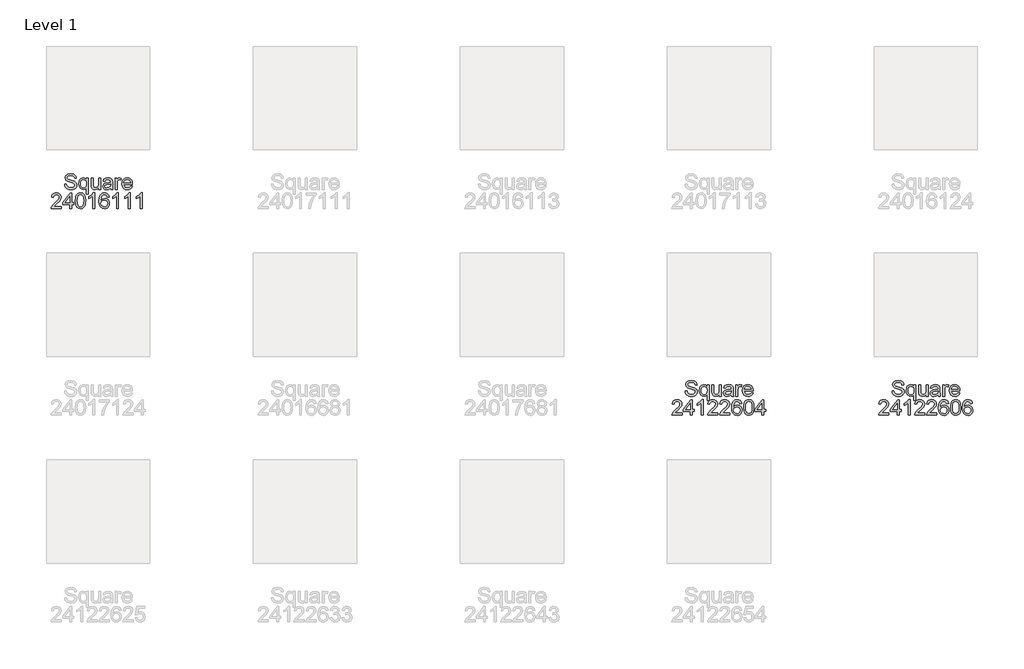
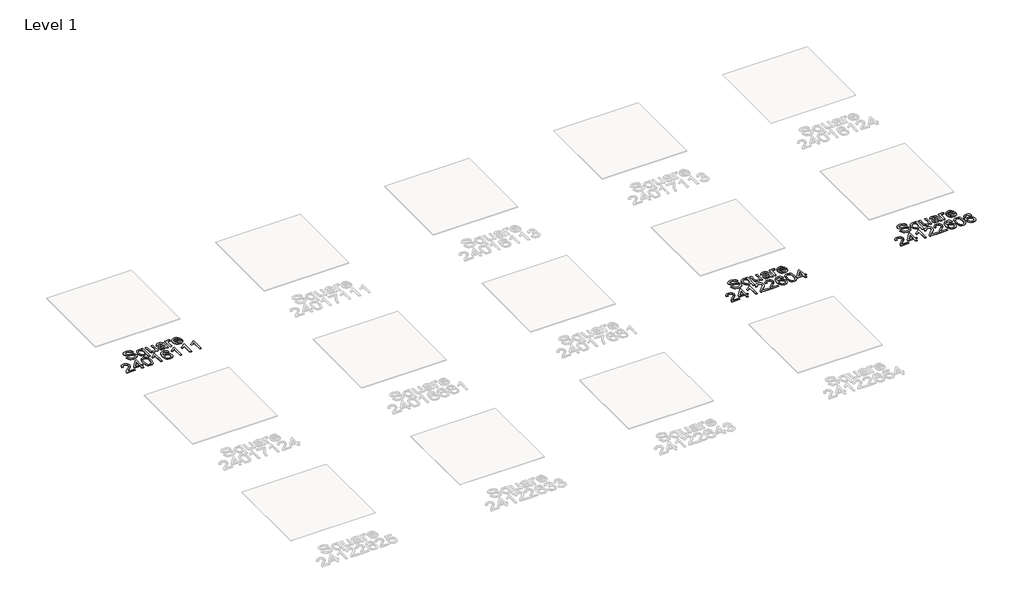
# One storey, part 4 of 6: 3 proxies.
"""IFC4 building model written with IfcOpenShell, lengths in millimetres."""

from ifc_helpers import new_model, si_unit, origin, origin_with_axes, place, context, project, spatial, polyline, outline, extrude, element, save

model = new_model("IFC4")

# Units and contexts
model_context = context("Model", 3, world=origin())
ifc_project = project(units=[si_unit("LENGTHUNIT", "METRE", prefix="MILLI")], contexts=[model_context])

# Site, building, storey
site = spatial("IfcSite", under=ifc_project)
building = spatial("IfcBuilding", under=site)
storey = spatial("IfcBuildingStorey", under=building, Name="Level 1", Elevation=0.0)

# Proxies
placement = place(None, origin())
element("IfcBuildingElementProxy", 1, Name="150mm Arial", ObjectType="150mm Arial", at=placement, inside=storey, context=model_context, shape_type="SweptSolid", body=[
    extrude(outline(polyline([(-4760.0314438, 688.8522427), (-4741.1958857, 688.8522427), (-4735.1258328, 669.9982904), (-4720.3001884, 658.0789138), (-4697.7122339, 653.5355712), (-4678.0305471, 656.9752678), (-4665.3202242, 666.4298351), (-4661.1447635, 679.0665816), (-4664.2717605, 690.8204114), (-4677.0740539, 699.3736678), (-4704.4996567, 706.5657608), (-4734.0221868, 715.8547811), (-4750.0434477, 729.8710852), (-4755.3225543, 748.5962787), (-4753.6900779, 759.62814), (-4748.7926489, 769.9150403), (-4740.7590258, 778.6338436), (-4729.7179674, 784.9614139), (-4701.795724, 790.0933678), (-4671.9972824, 784.7222906), (-4660.5745464, 778.0912177), (-4652.1316547, 768.940153), (-4646.7881687, 757.8393138), (-4644.6636501, 745.3589172), (-4663.4992083, 745.3589172), (-4666.9572991, 756.5977121), (-4674.1677862, 764.7095101), (-4685.4341723, 769.6207347), (-4701.05996, 771.2578096), (-4717.0536297, 769.6391288), (-4728.0257103, 764.7830865), (-4734.3716747, 757.6369787), (-4736.4869961, 749.1481017), (-4734.987877, 741.9100234), (-4730.4905196, 736.0882909), (-4699.7355848, 725.5668658), (-4666.4054761, 716.1122985), (-4655.6679203, 709.2788905), (-4648.1769232, 700.8451957), (-4643.7761348, 690.9031848), (-4642.3092054, 679.5448282), (-4643.996864, 667.9335527), (-4649.05984, 657.012056), (-4657.2911996, 647.612671), (-4668.4840093, 640.5677308), (-4681.9438918, 636.1669425), (-4696.9764699, 634.700013), (-4715.4303504, 636.2819056), (-4730.6192783, 641.0275833), (-4742.7179974, 648.9554403), (-4751.9012517, 660.0838707), (-4757.7965607, 673.6403222), (-4760.0314438, 688.8522427)])), origin_with_axes(), (0.0, 0.0, 1.0), 5.0),
    extrude(outline(polyline([(-4548.1314146, 594.6744519), (-4548.1314146, 652.1376196), (-4560.0875795, 639.6664199), (-4576.42154, 634.700013), (-4594.3281962, 638.6225548), (-4609.5677078, 650.3901801), (-4619.9971624, 668.9912135), (-4623.4736472, 693.4139794), (-4617.9554173, 723.2492092), (-4611.1955856, 734.8558862), (-4601.9525505, 743.2619898), (-4590.9620759, 748.3663525), (-4578.9599258, 750.0678067), (-4561.4487428, 744.7887001), (-4548.1314146, 728.9513802), (-4548.1314146, 747.7133619), (-4529.2958565, 747.7133619), (-4529.2958565, 594.6744519), (-4548.1314146, 594.6744519)]), holes=[polyline([(-4604.6380891, 692.3839098), (-4602.5181691, 675.3877617), (-4596.1584091, 663.2476558), (-4586.837199, 655.9635923), (-4575.8329289, 653.5355712), (-4565.2885112, 655.8440307), (-4556.316789, 662.7694092), (-4550.1777582, 674.4128744), (-4548.1314146, 690.8755937), (-4550.2881228, 708.4741486), (-4556.7582474, 721.0970996), (-4566.1346398, 728.6984613), (-4577.0101512, 731.2322485), (-4587.6833276, 728.8732052), (-4596.5998675, 721.7960754), (-4602.6285337, 709.7249474), (-4604.6380891, 692.3839098)])]), origin_with_axes(), (0.0, 0.0, 1.0), 5.0),
    extrude(outline(polyline([(-4430.4091762, 637.0544578), (-4430.4091762, 656.0739569), (-4445.1612442, 640.043499), (-4464.4014725, 634.700013), (-4482.1149906, 638.4524094), (-4494.3286728, 647.8701884), (-4499.9388732, 661.7393396), (-4501.0425192, 679.2505226), (-4501.0425192, 747.7133619), (-4482.2069611, 747.7133619), (-4482.2069611, 688.1164787), (-4481.0665269, 668.9130386), (-4473.6169165, 657.6374554), (-4459.5822184, 653.5355712), (-4443.8552631, 657.7294259), (-4433.4625967, 669.1521618), (-4430.4091762, 690.1398297), (-4430.4091762, 747.7133619), (-4411.573618, 747.7133619), (-4411.573618, 637.0544578), (-4430.4091762, 637.0544578)])), origin_with_axes(), (0.0, 0.0, 1.0), 5.0),
    extrude(outline(polyline([(-4315.0413825, 651.1811264), (-4333.3067235, 638.4156212), (-4353.485051, 634.700013), (-4369.2258018, 636.9348961), (-4380.8370773, 643.6395455), (-4387.9969806, 653.8206797), (-4390.3836151, 666.4850174), (-4386.7783715, 681.3842382), (-4377.3054102, 692.1999688), (-4364.1168406, 698.3803864), (-4347.8196682, 701.2130777), (-4315.1517471, 707.6878008), (-4315.0413825, 711.8816556), (-4316.3381665, 720.2877592), (-4320.2285186, 725.787595), (-4328.9289278, 729.8710852), (-4341.0506395, 731.2322485), (-4360.1069269, 727.6086109), (-4369.1936122, 714.7511352), (-4388.0291703, 717.1055799), (-4379.8805841, 735.4996797), (-4363.4730471, 746.2786221), (-4338.6226184, 750.0678067), (-4315.7955406, 746.7200805), (-4302.9012766, 738.3139769), (-4297.1255293, 725.5300776), (-4296.2058243, 709.0489642), (-4296.2058243, 685.6148811), (-4295.2493311, 652.8917777), (-4291.4969348, 637.0544578), (-4310.3324929, 637.0544578), (-4315.0413825, 651.1811264)]), holes=[polyline([(-4315.0413825, 688.8522427), (-4345.4284353, 683.0764954), (-4361.6336372, 680.0230748), (-4368.972883, 675.0566679), (-4371.5480569, 667.8093926), (-4365.9378565, 657.6190613), (-4349.4751372, 653.5355712), (-4330.4188499, 658.0421256), (-4318.1315912, 668.9498268), (-4315.1517471, 683.5179538), (-4315.0413825, 688.8522427)])]), origin_with_axes(), (0.0, 0.0, 1.0), 5.0),
    extrude(outline(polyline([(-4270.3069319, 637.0544578), (-4270.3069319, 747.7133619), (-4253.8258185, 747.7133619), (-4253.8258185, 731.3426131), (-4242.127171, 746.4257749), (-4230.3549472, 750.0678067), (-4211.4458126, 744.2552712), (-4217.7365947, 727.3694876), (-4230.9803466, 731.2322485), (-4241.6305303, 727.5166404), (-4248.4179531, 717.2159445), (-4251.4713737, 695.2166012), (-4251.4713737, 637.0544578), (-4270.3069319, 637.0544578)])), origin_with_axes(), (0.0, 0.0, 1.0), 5.0),
    extrude(outline(polyline([(-4122.1976406, 670.0166845), (-4103.7299644, 667.6622398), (-4110.38403, 653.7471033), (-4121.0020241, 643.3452399), (-4135.3448234, 636.8613197), (-4153.1733046, 634.700013), (-4175.2738155, 638.4294167), (-4192.2791607, 649.6176279), (-4203.1224825, 667.5380796), (-4206.7369231, 691.4642049), (-4203.0856943, 716.195072), (-4192.1320079, 734.6903393), (-4175.3565889, 746.2234398), (-4154.2401624, 750.0678067), (-4133.7813249, 746.2326369), (-4117.4335688, 734.7271275), (-4106.7144071, 716.2686484), (-4103.1413532, 691.5745695), (-4103.2517178, 686.4977979), (-4187.9013649, 686.4977979), (-4184.6410108, 672.3987205), (-4177.0672402, 662.0336452), (-4166.1365464, 655.6600897), (-4152.8054226, 653.5355712), (-4134.3377464, 657.4719085), (-4122.1976406, 670.0166845)]), holes=[polyline([(-4187.9013649, 705.3333561), (-4121.9769114, 705.3333561), (-4124.5244942, 715.284564), (-4129.5184923, 722.4030807), (-4140.4997699, 729.0249566), (-4154.3137388, 731.2322485), (-4167.0102661, 729.4710135), (-4177.5086986, 724.1873083), (-4184.8065577, 715.9513502), (-4187.9013649, 705.3333561)])]), origin_with_axes(), (0.0, 0.0, 1.0), 5.0),
    extrude(outline(polyline([(-4789.4620034, 472.9277892), (-4789.4620034, 454.092231), (-4888.3486838, 454.092231), (-4886.3253328, 467.0784654), (-4874.8842027, 487.0728519), (-4851.3029668, 508.9066483), (-4818.7821985, 540.2869825), (-4812.6845544, 551.1027131), (-4810.6520064, 561.6241382), (-4812.5695913, 571.0557128), (-4818.322346, 578.8961979), (-4827.1653094, 584.179903), (-4838.3535206, 585.9411381), (-4850.1027518, 584.2212897), (-4859.2308238, 579.0617448), (-4865.1215343, 570.8671733), (-4867.1586808, 560.0422456), (-4885.994239, 562.3966904), (-4881.4279037, 580.6160462), (-4871.5548707, 593.9241774), (-4856.8901746, 602.0635665), (-4837.9488504, 604.7766962), (-4818.8695704, 601.7600639), (-4804.2324656, 592.7101668), (-4794.9204526, 579.1905035), (-4791.8164482, 562.7645724), (-4795.1641744, 544.9039015), (-4806.2926047, 526.4362254), (-4833.2767491, 500.6293034), (-4854.9449986, 482.5111151), (-4863.4430727, 472.9277892), (-4789.4620034, 472.9277892)])), origin_with_axes(), (0.0, 0.0, 1.0), 5.0),
    extrude(outline(polyline([(-4709.4108813, 454.092231), (-4709.4108813, 489.4089025), (-4777.6897796, 489.4089025), (-4777.6897796, 508.2444607), (-4704.7019918, 602.4222515), (-4690.5753231, 602.4222515), (-4690.5753231, 508.2444607), (-4671.739765, 508.2444607), (-4671.739765, 489.4089025), (-4690.5753231, 489.4089025), (-4690.5753231, 454.092231), (-4709.4108813, 454.092231)]), holes=[polyline([(-4709.4108813, 508.2444607), (-4709.4108813, 566.4433923), (-4754.5132139, 508.2444607), (-4709.4108813, 508.2444607)])]), origin_with_axes(), (0.0, 0.0, 1.0), 5.0),
    extrude(outline(polyline([(-4655.2586516, 528.220453), (-4653.8744956, 552.3397163), (-4649.7220276, 571.5753462), (-4642.8426343, 586.2216481), (-4633.2777024, 596.5729277), (-4620.9582541, 602.7257541), (-4605.8153115, 604.7766962), (-4583.8159681, 599.9206539), (-4568.6224417, 585.922744), (-4559.7932739, 563.6290951), (-4556.3719713, 528.220453), (-4557.7423317, 504.2391455), (-4561.853413, 485.0495009), (-4568.6914196, 470.3894034), (-4578.2425559, 459.996737), (-4590.5895954, 453.8025239), (-4605.8153115, 451.7377862), (-4625.3866336, 455.3246357), (-4640.2490662, 466.085184), (-4651.5062553, 491.5702093), (-4655.2586516, 528.220453)]), holes=[polyline([(-4636.4230935, 528.2572412), (-4634.2158015, 498.628945), (-4627.5939256, 481.4810455), (-4617.7346881, 473.3002697), (-4605.8153115, 470.5733444), (-4593.8959348, 473.3094667), (-4584.0366973, 481.5178337), (-4577.4148214, 498.6749303), (-4575.2075295, 528.2572412), (-4577.341245, 557.2187513), (-4583.7423917, 574.500008), (-4593.5832351, 583.0808556), (-4606.0360407, 585.9411381), (-4617.8266586, 583.4211464), (-4627.29962, 575.8611714), (-4634.1422251, 557.5038598), (-4636.4230935, 528.2572412)])]), origin_with_axes(), (0.0, 0.0, 1.0), 5.0),
    extrude(outline(polyline([(-4469.2575148, 454.092231), (-4488.093073, 454.092231), (-4488.093073, 571.5201639), (-4505.9353498, 558.8098409), (-4525.7641893, 549.3000914), (-4525.7641893, 567.1055799), (-4498.1546456, 584.7271275), (-4481.3976207, 604.7766962), (-4469.2575148, 604.7766962), (-4469.2575148, 454.092231)])), origin_with_axes(), (0.0, 0.0, 1.0), 5.0),
    extrude(outline(polyline([(-4327.9908287, 564.7511352), (-4346.8263869, 562.3966904), (-4353.9632976, 578.1052516), (-4362.5073569, 583.9821664), (-4372.8356439, 585.9411381), (-4389.8317921, 581.3794013), (-4402.6892678, 564.2544945), (-4406.5934155, 550.2243949), (-4408.0419509, 530.6852624), (-4391.4320788, 545.7132419), (-4370.8490811, 550.6244665), (-4353.4482628, 547.2675433), (-4338.8433476, 537.1967737), (-4328.9381248, 521.8101093), (-4325.6363839, 502.5055016), (-4327.1906854, 489.0180279), (-4331.8535896, 476.5146386), (-4339.2388207, 465.9104401), (-4348.9601024, 458.1205388), (-4360.5759764, 453.3334744), (-4373.6449843, 451.7377862), (-4395.0143297, 455.9684292), (-4412.0334705, 468.660358), (-4423.1664994, 491.0643715), (-4426.877509, 524.4312685), (-4422.7572307, 561.9460349), (-4410.3963956, 587.5966071), (-4393.5198091, 600.4816739), (-4371.6584215, 604.7766962), (-4355.1313229, 602.1187488), (-4341.8967681, 594.1449066), (-4332.6261418, 581.4805689), (-4327.9908287, 564.7511352)]), holes=[polyline([(-4408.0419509, 502.7998072), (-4403.6825492, 486.4842407), (-4392.0942664, 474.6384404), (-4375.1165123, 470.5733444), (-4362.6866994, 472.6794688), (-4352.9148339, 478.9978421), (-4346.582665, 488.9306559), (-4344.4719421, 501.8801022), (-4346.5550739, 514.3099151), (-4352.8044693, 523.787475), (-4362.7418817, 529.78855), (-4375.8890645, 531.7889084), (-4388.3004833, 529.78855), (-4398.6793541, 523.787475), (-4405.7013017, 514.5398413), (-4408.0419509, 502.7998072)])]), origin_with_axes(), (0.0, 0.0, 1.0), 5.0),
    extrude(outline(polyline([(-4238.5219275, 454.092231), (-4257.3574856, 454.092231), (-4257.3574856, 571.5201639), (-4275.1997624, 558.8098409), (-4295.0286019, 549.3000914), (-4295.0286019, 567.1055799), (-4267.4190582, 584.7271275), (-4250.6620333, 604.7766962), (-4238.5219275, 604.7766962), (-4238.5219275, 454.092231)])), origin_with_axes(), (0.0, 0.0, 1.0), 5.0),
    extrude(outline(polyline([(-4123.1541338, 454.092231), (-4141.9896919, 454.092231), (-4141.9896919, 571.5201639), (-4159.8319687, 558.8098409), (-4179.6608082, 549.3000914), (-4179.6608082, 567.1055799), (-4152.0512645, 584.7271275), (-4135.2942396, 604.7766962), (-4123.1541338, 604.7766962), (-4123.1541338, 454.092231)])), origin_with_axes(), (0.0, 0.0, 1.0), 5.0),
    extrude(outline(polyline([(-4007.7863401, 454.092231), (-4026.6218983, 454.092231), (-4026.6218983, 571.5201639), (-4044.464175, 558.8098409), (-4064.2930146, 549.3000914), (-4064.2930146, 567.1055799), (-4036.6834708, 584.7271275), (-4019.9264459, 604.7766962), (-4007.7863401, 604.7766962), (-4007.7863401, 454.092231)])), origin_with_axes(), (0.0, 0.0, 1.0), 5.0),
])
element("IfcBuildingElementProxy", 2, Name="150mm Arial", ObjectType="150mm Arial", at=placement, inside=storey, context=model_context, shape_type="SweptSolid", body=[
    extrude(outline(polyline([(1239.9685562, -1311.1477573), (1258.8041143, -1311.1477573), (1264.8741672, -1330.0017096), (1279.6998116, -1341.9210862), (1302.2877661, -1346.4644288), (1321.9694529, -1343.0247322), (1334.6797758, -1333.5701649), (1338.8552365, -1320.9334184), (1335.7282395, -1309.1795886), (1322.9259461, -1300.6263322), (1295.5003433, -1293.4342392), (1265.9778132, -1284.1452189), (1249.9565523, -1270.1289148), (1244.6774457, -1251.4037213), (1246.3099221, -1240.37186), (1251.2073511, -1230.0849597), (1259.2409742, -1221.3661564), (1270.2820326, -1215.0385861), (1298.204276, -1209.9066322), (1328.0027176, -1215.2777094), (1339.4254536, -1221.9087823), (1347.8683453, -1231.059847), (1353.2118313, -1242.1606862), (1355.3363499, -1254.6410828), (1336.5007917, -1254.6410828), (1333.0427009, -1243.4022879), (1325.8322138, -1235.2904899), (1314.5658277, -1230.3792653), (1298.94004, -1228.7421904), (1282.9463703, -1230.3608712), (1271.9742897, -1235.2169135), (1265.6283253, -1242.3630213), (1263.5130039, -1250.8518983), (1265.012123, -1258.0899766), (1269.5094804, -1263.9117091), (1300.2644152, -1274.4331342), (1333.5945239, -1283.8877015), (1344.3320797, -1290.7211095), (1351.8230768, -1299.1548043), (1356.2238652, -1309.0968152), (1357.6907946, -1320.4551718), (1356.003136, -1332.0664473), (1350.94016, -1342.987944), (1342.7088004, -1352.387329), (1331.5159907, -1359.4322692), (1318.0561082, -1363.8330575), (1303.0235301, -1365.299987), (1284.5696496, -1363.7180944), (1269.3807217, -1358.9724167), (1257.2820026, -1351.0445597), (1248.0987483, -1339.9161293), (1242.2034393, -1326.3596778), (1239.9685562, -1311.1477573)])), origin_with_axes(), (0.0, 0.0, 1.0), 5.0),
    extrude(outline(polyline([(1451.8685854, -1405.3255481), (1451.8685854, -1347.8623804), (1439.9124205, -1360.3335801), (1423.57846, -1365.299987), (1405.6718038, -1361.3774452), (1390.4322922, -1349.6098199), (1380.0028376, -1331.0087865), (1376.5263528, -1306.5860206), (1382.0445827, -1276.7507908), (1388.8044144, -1265.1441138), (1398.0474495, -1256.7380102), (1409.0379241, -1251.6336475), (1421.0400742, -1249.9321933), (1438.5512572, -1255.2112999), (1451.8685854, -1271.0486198), (1451.8685854, -1252.2866381), (1470.7041435, -1252.2866381), (1470.7041435, -1405.3255481), (1451.8685854, -1405.3255481)]), holes=[polyline([(1395.3619109, -1307.6160902), (1397.4818309, -1324.6122383), (1403.8415909, -1336.7523442), (1413.162801, -1344.0364077), (1424.1670711, -1346.4644288), (1434.7114888, -1344.1559693), (1443.683211, -1337.2305908), (1449.8222418, -1325.5871256), (1451.8685854, -1309.1244063), (1449.7118772, -1291.5258514), (1443.2417526, -1278.9029004), (1433.8653602, -1271.3015387), (1422.9898488, -1268.7677515), (1412.3166724, -1271.1267948), (1403.4001325, -1278.2039246), (1397.3714663, -1290.2750526), (1395.3619109, -1307.6160902)])]), origin_with_axes(), (0.0, 0.0, 1.0), 5.0),
    extrude(outline(polyline([(1569.5908238, -1362.9455422), (1569.5908238, -1343.9260431), (1554.8387558, -1359.956501), (1535.5985275, -1365.299987), (1517.8850094, -1361.5475906), (1505.6713272, -1352.1298116), (1500.0611268, -1338.2606604), (1498.9574808, -1320.7494774), (1498.9574808, -1252.2866381), (1517.7930389, -1252.2866381), (1517.7930389, -1311.8835213), (1518.9334731, -1331.0869614), (1526.3830835, -1342.3625446), (1540.4177816, -1346.4644288), (1556.1447369, -1342.2705741), (1566.5374033, -1330.8478382), (1569.5908238, -1309.8601703), (1569.5908238, -1252.2866381), (1588.426382, -1252.2866381), (1588.426382, -1362.9455422), (1569.5908238, -1362.9455422)])), origin_with_axes(), (0.0, 0.0, 1.0), 5.0),
    extrude(outline(polyline([(1684.9586175, -1348.8188736), (1666.6932765, -1361.5843788), (1646.514949, -1365.299987), (1630.7741982, -1363.0651039), (1619.1629227, -1356.3604545), (1612.0030194, -1346.1793203), (1609.6163849, -1333.5149826), (1613.2216285, -1318.6157618), (1622.6945898, -1307.8000312), (1635.8831594, -1301.6196136), (1652.1803318, -1298.7869223), (1684.8482529, -1292.3121992), (1684.9586175, -1288.1183444), (1683.6618335, -1279.7122408), (1679.7714814, -1274.212405), (1671.0710722, -1270.1289148), (1658.9493605, -1268.7677515), (1639.8930731, -1272.3913891), (1630.8063878, -1285.2488648), (1611.9708297, -1282.8944201), (1620.1194159, -1264.5003203), (1636.5269529, -1253.7213779), (1661.3773816, -1249.9321933), (1684.2044594, -1253.2799195), (1697.0987234, -1261.6860231), (1702.8744707, -1274.4699224), (1703.7941757, -1290.9510358), (1703.7941757, -1314.3851189), (1704.7506689, -1347.1082223), (1708.5030652, -1362.9455422), (1689.6675071, -1362.9455422), (1684.9586175, -1348.8188736)]), holes=[polyline([(1684.9586175, -1311.1477573), (1654.5715647, -1316.9235046), (1638.3663628, -1319.9769252), (1631.027117, -1324.9433321), (1628.4519431, -1332.1906074), (1634.0621435, -1342.3809387), (1650.5248628, -1346.4644288), (1669.5811501, -1341.9578744), (1681.8684088, -1331.0501732), (1684.8482529, -1316.4820462), (1684.9586175, -1311.1477573)])]), origin_with_axes(), (0.0, 0.0, 1.0), 5.0),
    extrude(outline(polyline([(1729.6930681, -1362.9455422), (1729.6930681, -1252.2866381), (1746.1741815, -1252.2866381), (1746.1741815, -1268.6573869), (1757.872829, -1253.5742251), (1769.6450528, -1249.9321933), (1788.5541874, -1255.7447288), (1782.2634053, -1272.6305124), (1769.0196534, -1268.7677515), (1758.3694697, -1272.4833596), (1751.5820469, -1282.7840555), (1748.5286263, -1304.7833988), (1748.5286263, -1362.9455422), (1729.6930681, -1362.9455422)])), origin_with_axes(), (0.0, 0.0, 1.0), 5.0),
    extrude(outline(polyline([(1877.8023594, -1329.9833155), (1896.2700356, -1332.3377602), (1889.61597, -1346.2528967), (1878.9979759, -1356.6547601), (1864.6551766, -1363.1386803), (1846.8266954, -1365.299987), (1824.7261845, -1361.5705833), (1807.7208393, -1350.3823721), (1796.8775175, -1332.4619204), (1793.2630769, -1308.5357951), (1796.9143057, -1283.804928), (1807.8679921, -1265.3096607), (1824.6434111, -1253.7765602), (1845.7598376, -1249.9321933), (1866.2186751, -1253.7673631), (1882.5664312, -1265.2728725), (1893.2855929, -1283.7313516), (1896.8586468, -1308.4254305), (1896.7482822, -1313.5022021), (1812.0986351, -1313.5022021), (1815.3589892, -1327.6012795), (1822.9327598, -1337.9663548), (1833.8634536, -1344.3399103), (1847.1945774, -1346.4644288), (1865.6622536, -1342.5280915), (1877.8023594, -1329.9833155)]), holes=[polyline([(1812.0986351, -1294.6666439), (1878.0230886, -1294.6666439), (1875.4755058, -1284.715436), (1870.4815077, -1277.5969193), (1859.5002301, -1270.9750434), (1845.6862612, -1268.7677515), (1832.9897339, -1270.5289865), (1822.4913014, -1275.8126917), (1815.1934423, -1284.0486498), (1812.0986351, -1294.6666439)])]), origin_with_axes(), (0.0, 0.0, 1.0), 5.0),
    extrude(outline(polyline([(1210.5379966, -1527.0722108), (1210.5379966, -1545.907769), (1111.6513162, -1545.907769), (1113.6746672, -1532.9215346), (1125.1157973, -1512.9271481), (1148.6970332, -1491.0933517), (1181.2178015, -1459.7130175), (1187.3154456, -1448.8972869), (1189.3479936, -1438.3758618), (1187.4304087, -1428.9442872), (1181.677654, -1421.1038021), (1172.8346906, -1415.820097), (1161.6464794, -1414.0588619), (1149.8972482, -1415.7787103), (1140.7691762, -1420.9382552), (1134.8784657, -1429.1328267), (1132.8413192, -1439.9577544), (1114.005761, -1437.6033096), (1118.5720963, -1419.3839538), (1128.4451293, -1406.0758226), (1143.1098254, -1397.9364335), (1162.0511496, -1395.2233038), (1181.1304296, -1398.2399361), (1195.7675344, -1407.2898332), (1205.0795474, -1420.8094965), (1208.1835518, -1437.2354276), (1204.8358256, -1455.0960985), (1193.7073953, -1473.5637746), (1166.7232509, -1499.3706966), (1145.0550014, -1517.4888849), (1136.5569273, -1527.0722108), (1210.5379966, -1527.0722108)])), origin_with_axes(), (0.0, 0.0, 1.0), 5.0),
    extrude(outline(polyline([(1290.5891187, -1545.907769), (1290.5891187, -1510.5910975), (1222.3102204, -1510.5910975), (1222.3102204, -1491.7555393), (1295.2980082, -1397.5777485), (1309.4246769, -1397.5777485), (1309.4246769, -1491.7555393), (1328.260235, -1491.7555393), (1328.260235, -1510.5910975), (1309.4246769, -1510.5910975), (1309.4246769, -1545.907769), (1290.5891187, -1545.907769)]), holes=[polyline([(1290.5891187, -1491.7555393), (1290.5891187, -1433.5566077), (1245.4867861, -1491.7555393), (1290.5891187, -1491.7555393)])]), origin_with_axes(), (0.0, 0.0, 1.0), 5.0),
    extrude(outline(polyline([(1415.3746915, -1545.907769), (1396.5391333, -1545.907769), (1396.5391333, -1428.4798361), (1378.6968565, -1441.1901591), (1358.868017, -1450.6999086), (1358.868017, -1432.8944201), (1386.4775607, -1415.2728725), (1403.2345856, -1395.2233038), (1415.3746915, -1395.2233038), (1415.3746915, -1545.907769)])), origin_with_axes(), (0.0, 0.0, 1.0), 5.0),
    extrude(outline(polyline([(1556.6413776, -1527.0722108), (1556.6413776, -1545.907769), (1457.7546973, -1545.907769), (1459.7780483, -1532.9215346), (1471.2191783, -1512.9271481), (1494.8004142, -1491.0933517), (1527.3211826, -1459.7130175), (1533.4188267, -1448.8972869), (1535.4513747, -1438.3758618), (1533.5337898, -1428.9442872), (1527.7810351, -1421.1038021), (1518.9380716, -1415.820097), (1507.7498605, -1414.0588619), (1496.0006292, -1415.7787103), (1486.8725572, -1420.9382552), (1480.9818468, -1429.1328267), (1478.9447002, -1439.9577544), (1460.1091421, -1437.6033096), (1464.6754773, -1419.3839538), (1474.5485104, -1406.0758226), (1489.2132064, -1397.9364335), (1508.1545306, -1395.2233038), (1527.2338106, -1398.2399361), (1541.8709155, -1407.2898332), (1551.1829285, -1420.8094965), (1554.2869328, -1437.2354276), (1550.9392067, -1455.0960985), (1539.8107763, -1473.5637746), (1512.826632, -1499.3706966), (1491.1583825, -1517.4888849), (1482.6603084, -1527.0722108), (1556.6413776, -1527.0722108)])), origin_with_axes(), (0.0, 0.0, 1.0), 5.0),
    extrude(outline(polyline([(1672.0091713, -1527.0722108), (1672.0091713, -1545.907769), (1573.122491, -1545.907769), (1575.145842, -1532.9215346), (1586.586972, -1512.9271481), (1610.1682079, -1491.0933517), (1642.6889763, -1459.7130175), (1648.7866204, -1448.8972869), (1650.8191684, -1438.3758618), (1648.9015835, -1428.9442872), (1643.1488288, -1421.1038021), (1634.3058653, -1415.820097), (1623.1176541, -1414.0588619), (1611.3684229, -1415.7787103), (1602.2403509, -1420.9382552), (1596.3496405, -1429.1328267), (1594.3124939, -1439.9577544), (1575.4769358, -1437.6033096), (1580.043271, -1419.3839538), (1589.9163041, -1406.0758226), (1604.5810001, -1397.9364335), (1623.5223243, -1395.2233038), (1642.6016043, -1398.2399361), (1657.2387092, -1407.2898332), (1666.5507222, -1420.8094965), (1669.6547265, -1437.2354276), (1666.3070004, -1455.0960985), (1655.17857, -1473.5637746), (1628.1944257, -1499.3706966), (1606.5261762, -1517.4888849), (1598.0281021, -1527.0722108), (1672.0091713, -1527.0722108)])), origin_with_axes(), (0.0, 0.0, 1.0), 5.0),
    extrude(outline(polyline([(1787.376965, -1435.2488648), (1768.5414068, -1437.6033096), (1761.4044961, -1421.8947484), (1752.8604368, -1416.0178336), (1742.5321498, -1414.0588619), (1725.5360016, -1418.6205987), (1712.6785259, -1435.7455055), (1708.7743782, -1449.7756051), (1707.3258428, -1469.3147376), (1723.9357149, -1454.2867581), (1744.5187125, -1449.3755335), (1761.9195309, -1452.7324567), (1776.5244461, -1462.8032263), (1786.4296688, -1478.1898907), (1789.7314098, -1497.4944984), (1788.1771083, -1510.9819721), (1783.514204, -1523.4853614), (1776.128973, -1534.0895599), (1766.4076913, -1541.8794612), (1754.7918173, -1546.6665256), (1741.7228094, -1548.2622138), (1720.353464, -1544.0315708), (1703.3343232, -1531.339642), (1692.2012943, -1508.9356285), (1688.4902847, -1475.5687315), (1692.610563, -1438.0539651), (1704.9713981, -1412.4033929), (1721.8479846, -1399.5183261), (1743.7093722, -1395.2233038), (1760.2364708, -1397.8812512), (1773.4710256, -1405.8550934), (1782.7416518, -1418.5194311), (1787.376965, -1435.2488648)]), holes=[polyline([(1707.3258428, -1497.2001928), (1711.6852445, -1513.5157593), (1723.2735273, -1525.3615596), (1740.2512814, -1529.4266556), (1752.6810943, -1527.3205312), (1762.4529598, -1521.0021579), (1768.7851287, -1511.0693441), (1770.8958516, -1498.1198978), (1768.8127198, -1485.6900849), (1762.5633244, -1476.212525), (1752.625912, -1470.21145), (1739.4787292, -1468.2110916), (1727.0673104, -1470.21145), (1716.6884396, -1476.212525), (1709.666492, -1485.4601587), (1707.3258428, -1497.2001928)])]), origin_with_axes(), (0.0, 0.0, 1.0), 5.0),
    extrude(outline(polyline([(1806.2125231, -1471.779547), (1807.5966791, -1447.6602837), (1811.7491472, -1428.4246538), (1818.6285405, -1413.7783519), (1828.1934724, -1403.4270723), (1840.5129207, -1397.2742459), (1855.6558633, -1395.2233038), (1877.6552066, -1400.0793461), (1892.848733, -1414.077256), (1901.6779009, -1436.3709049), (1905.0992034, -1471.779547), (1903.728843, -1495.7608545), (1899.6177617, -1514.9504991), (1892.7797551, -1529.6105966), (1883.2286188, -1540.003263), (1870.8815794, -1546.1974761), (1855.6558633, -1548.2622138), (1836.0845411, -1544.6753643), (1821.2221085, -1533.914816), (1809.9649195, -1508.4297907), (1806.2125231, -1471.779547)]), holes=[polyline([(1825.0480813, -1471.7427588), (1827.2553733, -1501.371055), (1833.8772492, -1518.5189545), (1843.7364866, -1526.6997303), (1855.6558633, -1529.4266556), (1867.5752399, -1526.6905333), (1877.4344774, -1518.4821663), (1884.0563533, -1501.3250697), (1886.2636453, -1471.7427588), (1884.1299297, -1442.7812487), (1877.728783, -1425.499992), (1867.8879396, -1416.9191444), (1855.4351341, -1414.0588619), (1843.6445161, -1416.5788536), (1834.1715548, -1424.1388286), (1827.3289497, -1442.4961402), (1825.0480813, -1471.7427588)])]), origin_with_axes(), (0.0, 0.0, 1.0), 5.0),
    extrude(outline(polyline([(1982.7958808, -1545.907769), (1982.7958808, -1510.5910975), (1914.5169825, -1510.5910975), (1914.5169825, -1491.7555393), (1987.5047704, -1397.5777485), (2001.631439, -1397.5777485), (2001.631439, -1491.7555393), (2020.4669971, -1491.7555393), (2020.4669971, -1510.5910975), (2001.631439, -1510.5910975), (2001.631439, -1545.907769), (1982.7958808, -1545.907769)]), holes=[polyline([(1982.7958808, -1491.7555393), (1982.7958808, -1433.5566077), (1937.6935482, -1491.7555393), (1982.7958808, -1491.7555393)])]), origin_with_axes(), (0.0, 0.0, 1.0), 5.0),
])
element("IfcBuildingElementProxy", 3, Name="150mm Arial", ObjectType="150mm Arial", at=placement, inside=storey, context=model_context, shape_type="SweptSolid", body=[
    extrude(outline(polyline([(3239.9685562, -1311.1477573), (3258.8041143, -1311.1477573), (3264.8741672, -1330.0017096), (3279.6998116, -1341.9210862), (3302.2877661, -1346.4644288), (3321.9694529, -1343.0247322), (3334.6797758, -1333.5701649), (3338.8552365, -1320.9334184), (3335.7282395, -1309.1795886), (3322.9259461, -1300.6263322), (3295.5003433, -1293.4342392), (3265.9778132, -1284.1452189), (3249.9565523, -1270.1289148), (3244.6774457, -1251.4037213), (3246.3099221, -1240.37186), (3251.2073511, -1230.0849597), (3259.2409742, -1221.3661564), (3270.2820326, -1215.0385861), (3298.204276, -1209.9066322), (3328.0027176, -1215.2777094), (3339.4254536, -1221.9087823), (3347.8683453, -1231.059847), (3353.2118313, -1242.1606862), (3355.3363499, -1254.6410828), (3336.5007917, -1254.6410828), (3333.0427009, -1243.4022879), (3325.8322138, -1235.2904899), (3314.5658277, -1230.3792653), (3298.94004, -1228.7421904), (3282.9463703, -1230.3608712), (3271.9742897, -1235.2169135), (3265.6283253, -1242.3630213), (3263.5130039, -1250.8518983), (3265.012123, -1258.0899766), (3269.5094804, -1263.9117091), (3300.2644152, -1274.4331342), (3333.5945239, -1283.8877015), (3344.3320797, -1290.7211095), (3351.8230768, -1299.1548043), (3356.2238652, -1309.0968152), (3357.6907946, -1320.4551718), (3356.003136, -1332.0664473), (3350.94016, -1342.987944), (3342.7088004, -1352.387329), (3331.5159907, -1359.4322692), (3318.0561082, -1363.8330575), (3303.0235301, -1365.299987), (3284.5696496, -1363.7180944), (3269.3807217, -1358.9724167), (3257.2820026, -1351.0445597), (3248.0987483, -1339.9161293), (3242.2034393, -1326.3596778), (3239.9685562, -1311.1477573)])), origin_with_axes(), (0.0, 0.0, 1.0), 5.0),
    extrude(outline(polyline([(3451.8685854, -1405.3255481), (3451.8685854, -1347.8623804), (3439.9124205, -1360.3335801), (3423.57846, -1365.299987), (3405.6718038, -1361.3774452), (3390.4322922, -1349.6098199), (3380.0028376, -1331.0087865), (3376.5263528, -1306.5860206), (3382.0445827, -1276.7507908), (3388.8044144, -1265.1441138), (3398.0474495, -1256.7380102), (3409.0379241, -1251.6336475), (3421.0400742, -1249.9321933), (3438.5512572, -1255.2112999), (3451.8685854, -1271.0486198), (3451.8685854, -1252.2866381), (3470.7041435, -1252.2866381), (3470.7041435, -1405.3255481), (3451.8685854, -1405.3255481)]), holes=[polyline([(3395.3619109, -1307.6160902), (3397.4818309, -1324.6122383), (3403.8415909, -1336.7523442), (3413.162801, -1344.0364077), (3424.1670711, -1346.4644288), (3434.7114888, -1344.1559693), (3443.683211, -1337.2305908), (3449.8222418, -1325.5871256), (3451.8685854, -1309.1244063), (3449.7118772, -1291.5258514), (3443.2417526, -1278.9029004), (3433.8653602, -1271.3015387), (3422.9898488, -1268.7677515), (3412.3166724, -1271.1267948), (3403.4001325, -1278.2039246), (3397.3714663, -1290.2750526), (3395.3619109, -1307.6160902)])]), origin_with_axes(), (0.0, 0.0, 1.0), 5.0),
    extrude(outline(polyline([(3569.5908238, -1362.9455422), (3569.5908238, -1343.9260431), (3554.8387558, -1359.956501), (3535.5985275, -1365.299987), (3517.8850094, -1361.5475906), (3505.6713272, -1352.1298116), (3500.0611268, -1338.2606604), (3498.9574808, -1320.7494774), (3498.9574808, -1252.2866381), (3517.7930389, -1252.2866381), (3517.7930389, -1311.8835213), (3518.9334731, -1331.0869614), (3526.3830835, -1342.3625446), (3540.4177816, -1346.4644288), (3556.1447369, -1342.2705741), (3566.5374033, -1330.8478382), (3569.5908238, -1309.8601703), (3569.5908238, -1252.2866381), (3588.426382, -1252.2866381), (3588.426382, -1362.9455422), (3569.5908238, -1362.9455422)])), origin_with_axes(), (0.0, 0.0, 1.0), 5.0),
    extrude(outline(polyline([(3684.9586175, -1348.8188736), (3666.6932765, -1361.5843788), (3646.514949, -1365.299987), (3630.7741982, -1363.0651039), (3619.1629227, -1356.3604545), (3612.0030194, -1346.1793203), (3609.6163849, -1333.5149826), (3613.2216285, -1318.6157618), (3622.6945898, -1307.8000312), (3635.8831594, -1301.6196136), (3652.1803318, -1298.7869223), (3684.8482529, -1292.3121992), (3684.9586175, -1288.1183444), (3683.6618335, -1279.7122408), (3679.7714814, -1274.212405), (3671.0710722, -1270.1289148), (3658.9493605, -1268.7677515), (3639.8930731, -1272.3913891), (3630.8063878, -1285.2488648), (3611.9708297, -1282.8944201), (3620.1194159, -1264.5003203), (3636.5269529, -1253.7213779), (3661.3773816, -1249.9321933), (3684.2044594, -1253.2799195), (3697.0987234, -1261.6860231), (3702.8744707, -1274.4699224), (3703.7941757, -1290.9510358), (3703.7941757, -1314.3851189), (3704.7506689, -1347.1082223), (3708.5030652, -1362.9455422), (3689.6675071, -1362.9455422), (3684.9586175, -1348.8188736)]), holes=[polyline([(3684.9586175, -1311.1477573), (3654.5715647, -1316.9235046), (3638.3663628, -1319.9769252), (3631.027117, -1324.9433321), (3628.4519431, -1332.1906074), (3634.0621435, -1342.3809387), (3650.5248628, -1346.4644288), (3669.5811501, -1341.9578744), (3681.8684088, -1331.0501732), (3684.8482529, -1316.4820462), (3684.9586175, -1311.1477573)])]), origin_with_axes(), (0.0, 0.0, 1.0), 5.0),
    extrude(outline(polyline([(3729.6930681, -1362.9455422), (3729.6930681, -1252.2866381), (3746.1741815, -1252.2866381), (3746.1741815, -1268.6573869), (3757.872829, -1253.5742251), (3769.6450528, -1249.9321933), (3788.5541874, -1255.7447288), (3782.2634053, -1272.6305124), (3769.0196534, -1268.7677515), (3758.3694697, -1272.4833596), (3751.5820469, -1282.7840555), (3748.5286263, -1304.7833988), (3748.5286263, -1362.9455422), (3729.6930681, -1362.9455422)])), origin_with_axes(), (0.0, 0.0, 1.0), 5.0),
    extrude(outline(polyline([(3877.8023594, -1329.9833155), (3896.2700356, -1332.3377602), (3889.61597, -1346.2528967), (3878.9979759, -1356.6547601), (3864.6551766, -1363.1386803), (3846.8266954, -1365.299987), (3824.7261845, -1361.5705833), (3807.7208393, -1350.3823721), (3796.8775175, -1332.4619204), (3793.2630769, -1308.5357951), (3796.9143057, -1283.804928), (3807.8679921, -1265.3096607), (3824.6434111, -1253.7765602), (3845.7598376, -1249.9321933), (3866.2186751, -1253.7673631), (3882.5664312, -1265.2728725), (3893.2855929, -1283.7313516), (3896.8586468, -1308.4254305), (3896.7482822, -1313.5022021), (3812.0986351, -1313.5022021), (3815.3589892, -1327.6012795), (3822.9327598, -1337.9663548), (3833.8634536, -1344.3399103), (3847.1945774, -1346.4644288), (3865.6622536, -1342.5280915), (3877.8023594, -1329.9833155)]), holes=[polyline([(3812.0986351, -1294.6666439), (3878.0230886, -1294.6666439), (3875.4755058, -1284.715436), (3870.4815077, -1277.5969193), (3859.5002301, -1270.9750434), (3845.6862612, -1268.7677515), (3832.9897339, -1270.5289865), (3822.4913014, -1275.8126917), (3815.1934423, -1284.0486498), (3812.0986351, -1294.6666439)])]), origin_with_axes(), (0.0, 0.0, 1.0), 5.0),
    extrude(outline(polyline([(3210.5379966, -1527.0722108), (3210.5379966, -1545.907769), (3111.6513162, -1545.907769), (3113.6746672, -1532.9215346), (3125.1157973, -1512.9271481), (3148.6970332, -1491.0933517), (3181.2178015, -1459.7130175), (3187.3154456, -1448.8972869), (3189.3479936, -1438.3758618), (3187.4304087, -1428.9442872), (3181.677654, -1421.1038021), (3172.8346906, -1415.820097), (3161.6464794, -1414.0588619), (3149.8972482, -1415.7787103), (3140.7691762, -1420.9382552), (3134.8784657, -1429.1328267), (3132.8413192, -1439.9577544), (3114.005761, -1437.6033096), (3118.5720963, -1419.3839538), (3128.4451293, -1406.0758226), (3143.1098254, -1397.9364335), (3162.0511496, -1395.2233038), (3181.1304296, -1398.2399361), (3195.7675344, -1407.2898332), (3205.0795474, -1420.8094965), (3208.1835518, -1437.2354276), (3204.8358256, -1455.0960985), (3193.7073953, -1473.5637746), (3166.7232509, -1499.3706966), (3145.0550014, -1517.4888849), (3136.5569273, -1527.0722108), (3210.5379966, -1527.0722108)])), origin_with_axes(), (0.0, 0.0, 1.0), 5.0),
    extrude(outline(polyline([(3290.5891187, -1545.907769), (3290.5891187, -1510.5910975), (3222.3102204, -1510.5910975), (3222.3102204, -1491.7555393), (3295.2980082, -1397.5777485), (3309.4246769, -1397.5777485), (3309.4246769, -1491.7555393), (3328.260235, -1491.7555393), (3328.260235, -1510.5910975), (3309.4246769, -1510.5910975), (3309.4246769, -1545.907769), (3290.5891187, -1545.907769)]), holes=[polyline([(3290.5891187, -1491.7555393), (3290.5891187, -1433.5566077), (3245.4867861, -1491.7555393), (3290.5891187, -1491.7555393)])]), origin_with_axes(), (0.0, 0.0, 1.0), 5.0),
    extrude(outline(polyline([(3415.3746915, -1545.907769), (3396.5391333, -1545.907769), (3396.5391333, -1428.4798361), (3378.6968565, -1441.1901591), (3358.868017, -1450.6999086), (3358.868017, -1432.8944201), (3386.4775607, -1415.2728725), (3403.2345856, -1395.2233038), (3415.3746915, -1395.2233038), (3415.3746915, -1545.907769)])), origin_with_axes(), (0.0, 0.0, 1.0), 5.0),
    extrude(outline(polyline([(3556.6413776, -1527.0722108), (3556.6413776, -1545.907769), (3457.7546973, -1545.907769), (3459.7780483, -1532.9215346), (3471.2191783, -1512.9271481), (3494.8004142, -1491.0933517), (3527.3211826, -1459.7130175), (3533.4188267, -1448.8972869), (3535.4513747, -1438.3758618), (3533.5337898, -1428.9442872), (3527.7810351, -1421.1038021), (3518.9380716, -1415.820097), (3507.7498605, -1414.0588619), (3496.0006292, -1415.7787103), (3486.8725572, -1420.9382552), (3480.9818468, -1429.1328267), (3478.9447002, -1439.9577544), (3460.1091421, -1437.6033096), (3464.6754773, -1419.3839538), (3474.5485104, -1406.0758226), (3489.2132064, -1397.9364335), (3508.1545306, -1395.2233038), (3527.2338106, -1398.2399361), (3541.8709155, -1407.2898332), (3551.1829285, -1420.8094965), (3554.2869328, -1437.2354276), (3550.9392067, -1455.0960985), (3539.8107763, -1473.5637746), (3512.826632, -1499.3706966), (3491.1583825, -1517.4888849), (3482.6603084, -1527.0722108), (3556.6413776, -1527.0722108)])), origin_with_axes(), (0.0, 0.0, 1.0), 5.0),
    extrude(outline(polyline([(3672.0091713, -1527.0722108), (3672.0091713, -1545.907769), (3573.122491, -1545.907769), (3575.145842, -1532.9215346), (3586.586972, -1512.9271481), (3610.1682079, -1491.0933517), (3642.6889763, -1459.7130175), (3648.7866204, -1448.8972869), (3650.8191684, -1438.3758618), (3648.9015835, -1428.9442872), (3643.1488288, -1421.1038021), (3634.3058653, -1415.820097), (3623.1176541, -1414.0588619), (3611.3684229, -1415.7787103), (3602.2403509, -1420.9382552), (3596.3496405, -1429.1328267), (3594.3124939, -1439.9577544), (3575.4769358, -1437.6033096), (3580.043271, -1419.3839538), (3589.9163041, -1406.0758226), (3604.5810001, -1397.9364335), (3623.5223243, -1395.2233038), (3642.6016043, -1398.2399361), (3657.2387092, -1407.2898332), (3666.5507222, -1420.8094965), (3669.6547265, -1437.2354276), (3666.3070004, -1455.0960985), (3655.17857, -1473.5637746), (3628.1944257, -1499.3706966), (3606.5261762, -1517.4888849), (3598.0281021, -1527.0722108), (3672.0091713, -1527.0722108)])), origin_with_axes(), (0.0, 0.0, 1.0), 5.0),
    extrude(outline(polyline([(3787.376965, -1435.2488648), (3768.5414068, -1437.6033096), (3761.4044961, -1421.8947484), (3752.8604368, -1416.0178336), (3742.5321498, -1414.0588619), (3725.5360016, -1418.6205987), (3712.6785259, -1435.7455055), (3708.7743782, -1449.7756051), (3707.3258428, -1469.3147376), (3723.9357149, -1454.2867581), (3744.5187125, -1449.3755335), (3761.9195309, -1452.7324567), (3776.5244461, -1462.8032263), (3786.4296688, -1478.1898907), (3789.7314098, -1497.4944984), (3788.1771083, -1510.9819721), (3783.514204, -1523.4853614), (3776.128973, -1534.0895599), (3766.4076913, -1541.8794612), (3754.7918173, -1546.6665256), (3741.7228094, -1548.2622138), (3720.353464, -1544.0315708), (3703.3343232, -1531.339642), (3692.2012943, -1508.9356285), (3688.4902847, -1475.5687315), (3692.610563, -1438.0539651), (3704.9713981, -1412.4033929), (3721.8479846, -1399.5183261), (3743.7093722, -1395.2233038), (3760.2364708, -1397.8812512), (3773.4710256, -1405.8550934), (3782.7416518, -1418.5194311), (3787.376965, -1435.2488648)]), holes=[polyline([(3707.3258428, -1497.2001928), (3711.6852445, -1513.5157593), (3723.2735273, -1525.3615596), (3740.2512814, -1529.4266556), (3752.6810943, -1527.3205312), (3762.4529598, -1521.0021579), (3768.7851287, -1511.0693441), (3770.8958516, -1498.1198978), (3768.8127198, -1485.6900849), (3762.5633244, -1476.212525), (3752.625912, -1470.21145), (3739.4787292, -1468.2110916), (3727.0673104, -1470.21145), (3716.6884396, -1476.212525), (3709.666492, -1485.4601587), (3707.3258428, -1497.2001928)])]), origin_with_axes(), (0.0, 0.0, 1.0), 5.0),
    extrude(outline(polyline([(3806.2125231, -1471.779547), (3807.5966791, -1447.6602837), (3811.7491472, -1428.4246538), (3818.6285405, -1413.7783519), (3828.1934724, -1403.4270723), (3840.5129207, -1397.2742459), (3855.6558633, -1395.2233038), (3877.6552066, -1400.0793461), (3892.848733, -1414.077256), (3901.6779009, -1436.3709049), (3905.0992034, -1471.779547), (3903.728843, -1495.7608545), (3899.6177617, -1514.9504991), (3892.7797551, -1529.6105966), (3883.2286188, -1540.003263), (3870.8815794, -1546.1974761), (3855.6558633, -1548.2622138), (3836.0845411, -1544.6753643), (3821.2221085, -1533.914816), (3809.9649195, -1508.4297907), (3806.2125231, -1471.779547)]), holes=[polyline([(3825.0480813, -1471.7427588), (3827.2553733, -1501.371055), (3833.8772492, -1518.5189545), (3843.7364866, -1526.6997303), (3855.6558633, -1529.4266556), (3867.5752399, -1526.6905333), (3877.4344774, -1518.4821663), (3884.0563533, -1501.3250697), (3886.2636453, -1471.7427588), (3884.1299297, -1442.7812487), (3877.728783, -1425.499992), (3867.8879396, -1416.9191444), (3855.4351341, -1414.0588619), (3843.6445161, -1416.5788536), (3834.1715548, -1424.1388286), (3827.3289497, -1442.4961402), (3825.0480813, -1471.7427588)])]), origin_with_axes(), (0.0, 0.0, 1.0), 5.0),
    extrude(outline(polyline([(4018.1125524, -1435.2488648), (3999.2769942, -1437.6033096), (3992.1400835, -1421.8947484), (3983.5960242, -1416.0178336), (3973.2677372, -1414.0588619), (3956.271589, -1418.6205987), (3943.4141132, -1435.7455055), (3939.5099656, -1449.7756051), (3938.0614302, -1469.3147376), (3954.6713023, -1454.2867581), (3975.2542999, -1449.3755335), (3992.6551183, -1452.7324567), (4007.2600335, -1462.8032263), (4017.1652562, -1478.1898907), (4020.4669971, -1497.4944984), (4018.9126957, -1510.9819721), (4014.2497914, -1523.4853614), (4006.8645604, -1534.0895599), (3997.1432786, -1541.8794612), (3985.5274046, -1546.6665256), (3972.4583968, -1548.2622138), (3951.0890514, -1544.0315708), (3934.0699106, -1531.339642), (3922.9368817, -1508.9356285), (3919.2258721, -1475.5687315), (3923.3461504, -1438.0539651), (3935.7069854, -1412.4033929), (3952.583572, -1399.5183261), (3974.4449595, -1395.2233038), (3990.9720582, -1397.8812512), (4004.2066129, -1405.8550934), (4013.4772392, -1418.5194311), (4018.1125524, -1435.2488648)]), holes=[polyline([(3938.0614302, -1497.2001928), (3942.4208319, -1513.5157593), (3954.0091147, -1525.3615596), (3970.9868688, -1529.4266556), (3983.4166817, -1527.3205312), (3993.1885472, -1521.0021579), (3999.520716, -1511.0693441), (4001.631439, -1498.1198978), (3999.5483072, -1485.6900849), (3993.2989118, -1476.212525), (3983.3614994, -1470.21145), (3970.2143166, -1468.2110916), (3957.8028978, -1470.21145), (3947.424027, -1476.212525), (3940.4020794, -1485.4601587), (3938.0614302, -1497.2001928)])]), origin_with_axes(), (0.0, 0.0, 1.0), 5.0),
])

save(model, "model.ifc")
